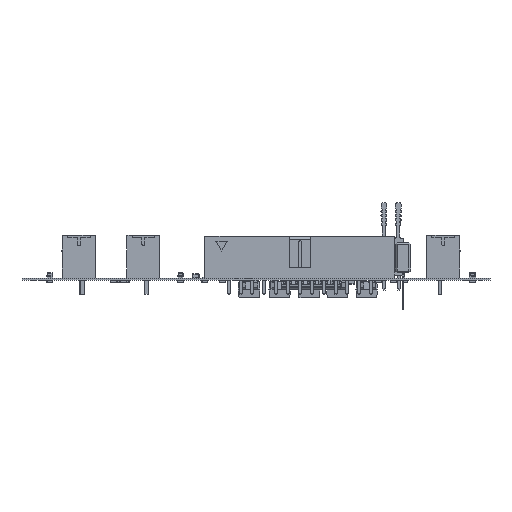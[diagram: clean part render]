
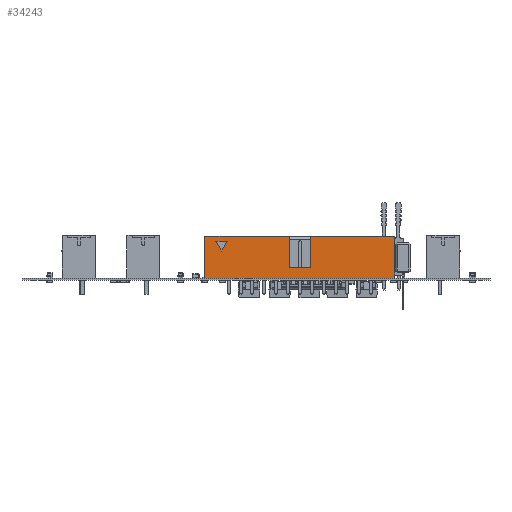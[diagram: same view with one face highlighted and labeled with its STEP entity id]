
A CAD part, front view. The second image highlights one B-rep face of the part: STEP entity #34243.
In plain terms, the highlighted planar face has unit normal (0, -1, 0).
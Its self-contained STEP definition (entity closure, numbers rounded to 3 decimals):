
#32992 = VERTEX_POINT('',#32993);
#32993 = CARTESIAN_POINT('',(5.07,-2.93,-2.27));
#32999 = EDGE_CURVE('',#33000,#32992,#33002,.T.);
#33000 = VERTEX_POINT('',#33001);
#33001 = CARTESIAN_POINT('',(-35.55,-2.93,-2.27));
#33002 = LINE('',#33003,#33004);
#33003 = CARTESIAN_POINT('',(5.07,-2.93,-2.27));
#33004 = VECTOR('',#33005,1.);
#33005 = DIRECTION('',(1.,0.,0.));
#33162 = VERTEX_POINT('',#33163);
#33163 = CARTESIAN_POINT('',(5.07,-2.93,6.63));
#33169 = EDGE_CURVE('',#33162,#32992,#33170,.T.);
#33170 = LINE('',#33171,#33172);
#33171 = CARTESIAN_POINT('',(5.07,-2.93,-2.27));
#33172 = VECTOR('',#33173,1.);
#33173 = DIRECTION('',(0.,0.,-1.));
#33185 = VERTEX_POINT('',#33186);
#33186 = CARTESIAN_POINT('',(-35.55,-2.93,6.63));
#33192 = EDGE_CURVE('',#33185,#33193,#33195,.T.);
#33193 = VERTEX_POINT('',#33194);
#33194 = CARTESIAN_POINT('',(-17.49,-2.93,6.63));
#33195 = LINE('',#33196,#33197);
#33196 = CARTESIAN_POINT('',(-15.24,-2.93,6.63));
#33197 = VECTOR('',#33198,1.);
#33198 = DIRECTION('',(1.,0.,0.));
#33249 = VERTEX_POINT('',#33250);
#33250 = CARTESIAN_POINT('',(-12.99,-2.93,6.63));
#33256 = EDGE_CURVE('',#33249,#33162,#33257,.T.);
#33257 = LINE('',#33258,#33259);
#33258 = CARTESIAN_POINT('',(-15.24,-2.93,6.63));
#33259 = VECTOR('',#33260,1.);
#33260 = DIRECTION('',(1.,0.,0.));
#33297 = EDGE_CURVE('',#33000,#33185,#33298,.T.);
#33298 = LINE('',#33299,#33300);
#33299 = CARTESIAN_POINT('',(-35.55,-2.93,-2.27));
#33300 = VECTOR('',#33301,1.);
#33301 = DIRECTION('',(0.,0.,1.));
#34243 = ADVANCED_FACE('',(#34244,#34270),#34299,.T.);
#34244 = FACE_BOUND('',#34245,.T.);
#34245 = EDGE_LOOP('',(#34246,#34256,#34264));
#34246 = ORIENTED_EDGE('',*,*,#34247,.T.);
#34247 = EDGE_CURVE('',#34248,#34250,#34252,.T.);
#34248 = VERTEX_POINT('',#34249);
#34249 = CARTESIAN_POINT('',(-31.994,-2.93,3.516));
#34250 = VERTEX_POINT('',#34251);
#34251 = CARTESIAN_POINT('',(-33.194,-2.93,5.594));
#34252 = LINE('',#34253,#34254);
#34253 = CARTESIAN_POINT('',(-31.994,-2.93,3.516));
#34254 = VECTOR('',#34255,1.);
#34255 = DIRECTION('',(-0.5,0.,0.866));
#34256 = ORIENTED_EDGE('',*,*,#34257,.T.);
#34257 = EDGE_CURVE('',#34250,#34258,#34260,.T.);
#34258 = VERTEX_POINT('',#34259);
#34259 = CARTESIAN_POINT('',(-30.794,-2.93,5.594));
#34260 = LINE('',#34261,#34262);
#34261 = CARTESIAN_POINT('',(5.07,-2.93,5.594));
#34262 = VECTOR('',#34263,1.);
#34263 = DIRECTION('',(1.,0.,0.));
#34264 = ORIENTED_EDGE('',*,*,#34265,.T.);
#34265 = EDGE_CURVE('',#34258,#34248,#34266,.T.);
#34266 = LINE('',#34267,#34268);
#34267 = CARTESIAN_POINT('',(-30.794,-2.93,5.594));
#34268 = VECTOR('',#34269,1.);
#34269 = DIRECTION('',(-0.5,0.,-0.866));
#34270 = FACE_BOUND('',#34271,.T.);
#34271 = EDGE_LOOP('',(#34272,#34280,#34288,#34294,#34295,#34296,#34297,
    #34298));
#34272 = ORIENTED_EDGE('',*,*,#34273,.T.);
#34273 = EDGE_CURVE('',#33249,#34274,#34276,.T.);
#34274 = VERTEX_POINT('',#34275);
#34275 = CARTESIAN_POINT('',(-12.99,-2.93,0.));
#34276 = LINE('',#34277,#34278);
#34277 = CARTESIAN_POINT('',(-12.99,-2.93,-2.27));
#34278 = VECTOR('',#34279,1.);
#34279 = DIRECTION('',(0.,0.,-1.));
#34280 = ORIENTED_EDGE('',*,*,#34281,.T.);
#34281 = EDGE_CURVE('',#34274,#34282,#34284,.T.);
#34282 = VERTEX_POINT('',#34283);
#34283 = CARTESIAN_POINT('',(-17.49,-2.93,0.));
#34284 = LINE('',#34285,#34286);
#34285 = CARTESIAN_POINT('',(5.07,-2.93,0.));
#34286 = VECTOR('',#34287,1.);
#34287 = DIRECTION('',(-1.,0.,0.));
#34288 = ORIENTED_EDGE('',*,*,#34289,.T.);
#34289 = EDGE_CURVE('',#34282,#33193,#34290,.T.);
#34290 = LINE('',#34291,#34292);
#34291 = CARTESIAN_POINT('',(-17.49,-2.93,-2.27));
#34292 = VECTOR('',#34293,1.);
#34293 = DIRECTION('',(0.,0.,1.));
#34294 = ORIENTED_EDGE('',*,*,#33192,.F.);
#34295 = ORIENTED_EDGE('',*,*,#33297,.F.);
#34296 = ORIENTED_EDGE('',*,*,#32999,.T.);
#34297 = ORIENTED_EDGE('',*,*,#33169,.F.);
#34298 = ORIENTED_EDGE('',*,*,#33256,.F.);
#34299 = PLANE('',#34300);
#34300 = AXIS2_PLACEMENT_3D('',#34301,#34302,#34303);
#34301 = CARTESIAN_POINT('',(5.07,-2.93,-2.27));
#34302 = DIRECTION('',(0.,-1.,0.));
#34303 = DIRECTION('',(0.,0.,-1.));
